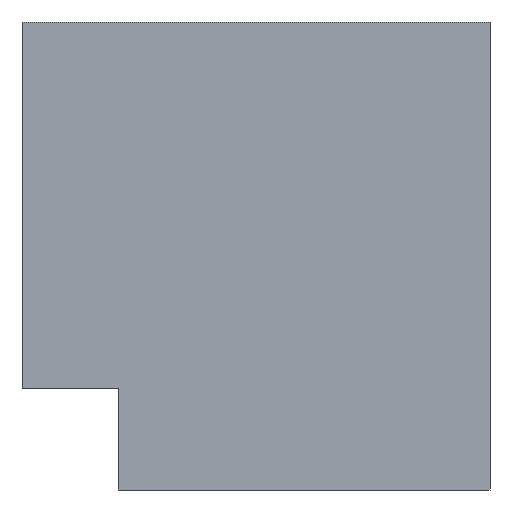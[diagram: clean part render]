
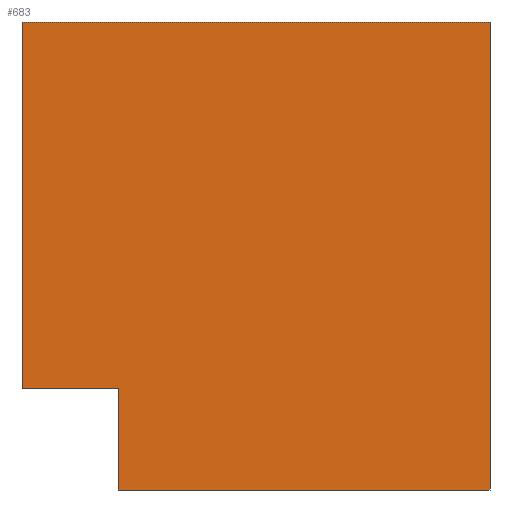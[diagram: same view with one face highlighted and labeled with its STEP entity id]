
A CAD part, front view. The second image highlights one B-rep face of the part: STEP entity #683.
In plain terms, the highlighted planar face has unit normal (0, -1, 0).
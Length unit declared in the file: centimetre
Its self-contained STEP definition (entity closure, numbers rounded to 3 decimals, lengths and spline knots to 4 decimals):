
#30 = CARTESIAN_POINT ( 'NONE',  ( 0., 0., 1000. ) ) ;
#32 = LINE ( 'NONE', #332, #231 ) ;
#48 = CARTESIAN_POINT ( 'NONE',  ( 205.2892, 0., 0. ) ) ;
#77 = VERTEX_POINT ( 'NONE', #117 ) ;
#83 = DIRECTION ( 'NONE',  ( 1., 0., 0. ) ) ;
#105 = ORIENTED_EDGE ( 'NONE', *, *, #108, .F. ) ;
#108 = EDGE_CURVE ( 'NONE', #532, #77, #610, .T. ) ;
#117 = CARTESIAN_POINT ( 'NONE',  ( 1000., 0., 0. ) ) ;
#131 = EDGE_LOOP ( 'NONE', ( #486, #842, #693, #189, #105, #933 ) ) ;
#143 = DIRECTION ( 'NONE',  ( 0., 0., -1. ) ) ;
#157 = CARTESIAN_POINT ( 'NONE',  ( 0., 0., 0. ) ) ;
#171 = LINE ( 'NONE', #157, #466 ) ;
#172 = EDGE_CURVE ( 'NONE', #892, #77, #171, .T. ) ;
#189 = ORIENTED_EDGE ( 'NONE', *, *, #172, .T. ) ;
#196 = LINE ( 'NONE', #495, #444 ) ;
#205 = VECTOR ( 'NONE', #778, 100. ) ;
#231 = VECTOR ( 'NONE', #761, 100. ) ;
#283 = VERTEX_POINT ( 'NONE', #414 ) ;
#285 = EDGE_CURVE ( 'NONE', #892, #283, #628, .T. ) ;
#304 = EDGE_CURVE ( 'NONE', #759, #532, #32, .T. ) ;
#332 = CARTESIAN_POINT ( 'NONE',  ( 0., 0., 1000. ) ) ;
#375 = DIRECTION ( 'NONE',  ( 0., 0., 1. ) ) ;
#376 = VECTOR ( 'NONE', #143, 100. ) ;
#380 = EDGE_CURVE ( 'NONE', #283, #789, #196, .T. ) ;
#414 = CARTESIAN_POINT ( 'NONE',  ( 205.2892, 0., 217.1618 ) ) ;
#444 = VECTOR ( 'NONE', #855, 100. ) ;
#449 = CARTESIAN_POINT ( 'NONE',  ( 1000., 0., 1000. ) ) ;
#466 = VECTOR ( 'NONE', #83, 100. ) ;
#486 = ORIENTED_EDGE ( 'NONE', *, *, #579, .T. ) ;
#495 = CARTESIAN_POINT ( 'NONE',  ( 0., 0., 217.1618 ) ) ;
#513 = LINE ( 'NONE', #797, #376 ) ;
#532 = VERTEX_POINT ( 'NONE', #449 ) ;
#551 = CARTESIAN_POINT ( 'NONE',  ( 205.2892, 0., 0. ) ) ;
#562 = VECTOR ( 'NONE', #820, 100. ) ;
#565 = CARTESIAN_POINT ( 'NONE',  ( 0., 0., 217.1618 ) ) ;
#579 = EDGE_CURVE ( 'NONE', #759, #789, #513, .T. ) ;
#603 = FACE_OUTER_BOUND ( 'NONE', #131, .T. ) ;
#610 = LINE ( 'NONE', #815, #562 ) ;
#628 = LINE ( 'NONE', #551, #205 ) ;
#683 = ADVANCED_FACE ( 'NONE', ( #603 ), #893, .F. ) ;
#693 = ORIENTED_EDGE ( 'NONE', *, *, #285, .F. ) ;
#698 = AXIS2_PLACEMENT_3D ( 'NONE', #751, #817, #375 ) ;
#751 = CARTESIAN_POINT ( 'NONE',  ( 0., 0., 1000. ) ) ;
#759 = VERTEX_POINT ( 'NONE', #30 ) ;
#761 = DIRECTION ( 'NONE',  ( 1., 0., 0. ) ) ;
#778 = DIRECTION ( 'NONE',  ( 0., 0., 1. ) ) ;
#789 = VERTEX_POINT ( 'NONE', #565 ) ;
#797 = CARTESIAN_POINT ( 'NONE',  ( 0., 0., 1000. ) ) ;
#815 = CARTESIAN_POINT ( 'NONE',  ( 1000., 0., 1000. ) ) ;
#817 = DIRECTION ( 'NONE',  ( 0., 1., 0. ) ) ;
#820 = DIRECTION ( 'NONE',  ( 0., 0., -1. ) ) ;
#842 = ORIENTED_EDGE ( 'NONE', *, *, #380, .F. ) ;
#855 = DIRECTION ( 'NONE',  ( -1., 0., 0. ) ) ;
#892 = VERTEX_POINT ( 'NONE', #48 ) ;
#893 = PLANE ( 'NONE',  #698 ) ;
#933 = ORIENTED_EDGE ( 'NONE', *, *, #304, .F. ) ;
